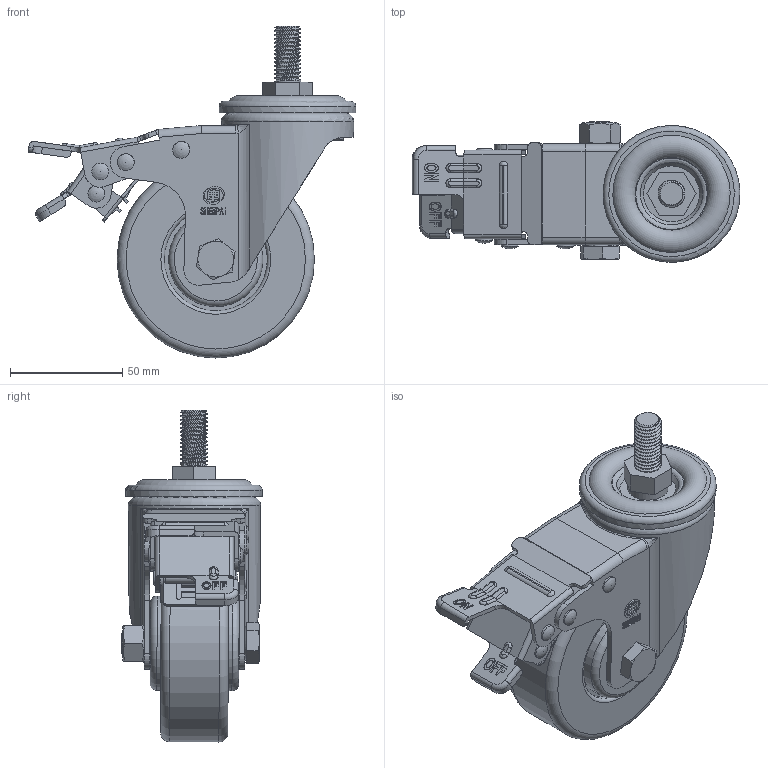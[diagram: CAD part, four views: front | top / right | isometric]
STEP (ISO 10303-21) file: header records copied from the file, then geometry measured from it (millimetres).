
FILE_DESCRIPTION(/* description */ (''),/* implementation_level */ '2;1');
FILE_NAME(/* name */ '20A8B_3,5_F.stp',/* time_stamp */ '2022-09-03T10:30:05+08:00',/* author */ (''),/* organization */ (''),/* preprocessor_version */ 'ST-DEVELOPER v14',/* originating_system */ 'SIEMENS PLM Software NX 8.0',/* authorisation */ '');
FILE_SCHEMA (('AUTOMOTIVE_DESIGN { 1 0 10303 214 3 1 1 1 }'));
Length unit declared in the file: millimetre
Products named in the file (1): 20A8B_3,5_F
Bounding box: 146.2 x 62.75 x 148.07 mm (x, y, z)
Volume: 251614.4 mm3; surface area: 102037.1 mm2
Topology: 1 solids, 2 shells, 1063 faces, 3000 edges, 1975 vertices
Faces by surface type: plane 506, cylinder 305, torus 77, sphere 73, cone 63, bspline 27, extrusion 12
Full cylindrical faces by diameter (mm): 4 x4, 5 x6, 5.2 x16, 7.5 x4, 10 x2, 10.3 x2, 11.2 x2, 12 x1, 12.2 x1, 12.496 x1, 13.2 x1, 13.6 x3, 16 x1, 18 x1, 20.8 x4, 23.2 x2, 24 x1, 30.122 x1, 33 x2, 41 x2, 42 x2, 45.996 x1, 46 x2, 54 x1, 56 x1, 59 x1, 61 x1, 88 x1
Entity records: 42809 total; most frequent: CARTESIAN_POINT 17785, ORIENTED_EDGE 5328, DIRECTION 4781, EDGE_CURVE 2664, VERTEX_POINT 1819, AXIS2_PLACEMENT_3D 1813, EDGE_LOOP 1331, VECTOR 1155
